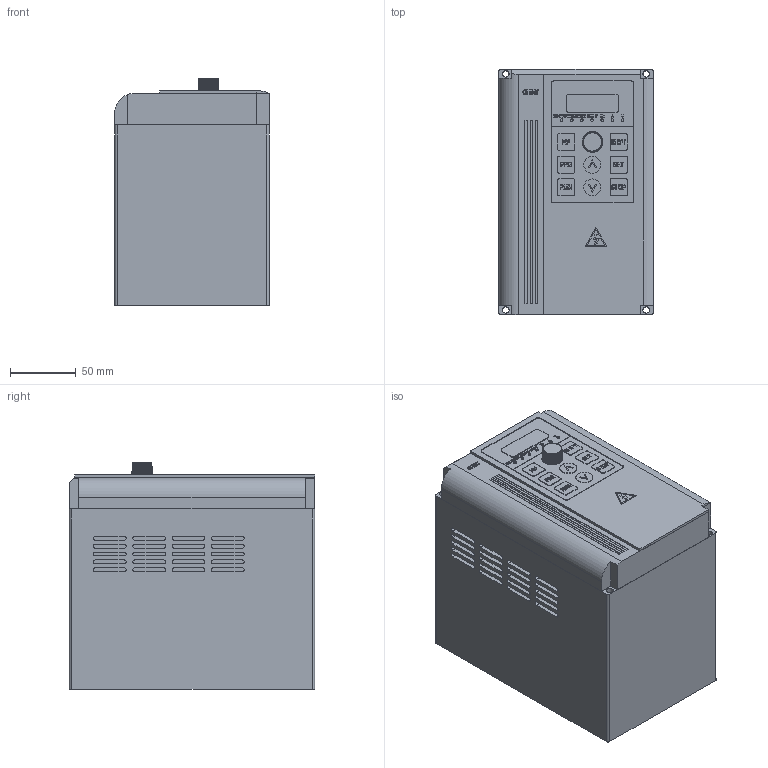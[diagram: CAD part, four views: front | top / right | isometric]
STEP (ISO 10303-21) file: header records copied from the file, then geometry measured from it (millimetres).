
FILE_DESCRIPTION(/* description */ (''),/* implementation_level */ '2;1');
FILE_NAME(/* name */ 'D:\2 ДОГОВОР ЧИНТ\Выслать\CHINT 10.03.2019\NVF2G\NVF2G-0.4 TS4 NVF2G-0.75 TS4(1.5 PS4) NVF2G-1.5 TS4(2.2 PS4) NVF2G-2.2 TD2 NVF2G-2.2 TS4(3.7 PS4) NVF2G-3.7 TS4(5.5 PS4).stp',/* time_stamp */ '2019-03-11T18:16:39+03:00',/* author */ ('RSagdiev'),/* organization */ (''),/* preprocessor_version */ 'ST-DEVELOPER v16.5',/* originating_system */ 'Autodesk Inventor 2017',/* authorisation */ '');
FILE_SCHEMA (('AUTOMOTIVE_DESIGN { 1 0 10303 214 3 1 1 }'));
Length unit declared in the file: millimetre
Products named in the file (1): NVF2G-0.4 TS4 NVF2G-0.75 TS4(1.5 PS4) NVF2G-1.5 TS4(2.2 PS4) NVF2G-2.
2 TD2 NVF2G-2.2 TS4(3.7 PS4) NVF2G-3.7 TS4(5.5 PS4)
Bounding box: 118 x 187 x 173 mm (x, y, z)
Volume: 3541797.5 mm3; surface area: 261506.9 mm2
Topology: 17 solids, 17 shells, 1243 faces, 3327 edges, 2217 vertices
Faces by surface type: plane 864, bspline 193, cylinder 96, cone 90
Full cylindrical faces by diameter (mm): 2 x7, 5 x4, 13 x3
Entity records: 40033 total; most frequent: CARTESIAN_POINT 10300, ORIENTED_EDGE 6632, DIRECTION 5223, EDGE_CURVE 3313, LINE 2373, VECTOR 2373, VERTEX_POINT 2217, AXIS2_PLACEMENT_3D 1425
